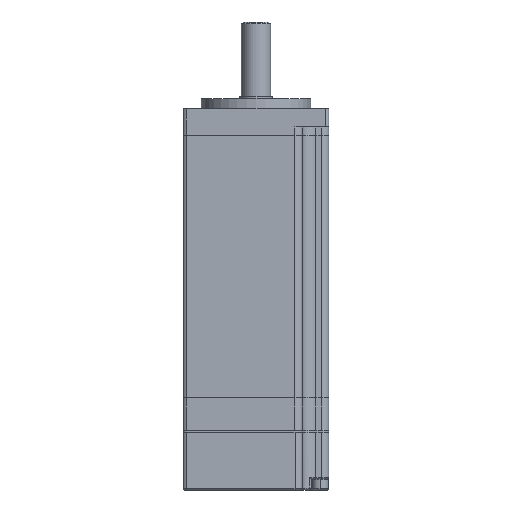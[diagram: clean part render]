
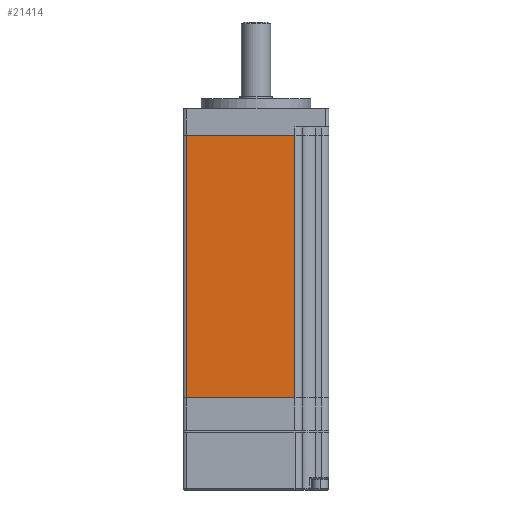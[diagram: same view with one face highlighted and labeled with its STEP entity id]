
A CAD part, front view. The second image highlights one B-rep face of the part: STEP entity #21414.
In plain terms, the highlighted planar face has unit normal (0, -1, 0).
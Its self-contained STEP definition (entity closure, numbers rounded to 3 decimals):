
#605 = LINE ( 'NONE', #18935, #1196 ) ;
#619 = EDGE_CURVE ( 'NONE', #4194, #2997, #23001, .T. ) ;
#1176 = EDGE_CURVE ( 'NONE', #4194, #21186, #6392, .T. ) ;
#1196 = VECTOR ( 'NONE', #5372, 1000. ) ;
#1214 = CARTESIAN_POINT ( 'NONE',  ( -19., -20., -38. ) ) ;
#1232 = ORIENTED_EDGE ( 'NONE', *, *, #20548, .F. ) ;
#1429 = EDGE_CURVE ( 'NONE', #21735, #2997, #4602, .T. ) ;
#2065 = FACE_OUTER_BOUND ( 'NONE', #12381, .T. ) ;
#2214 = CARTESIAN_POINT ( 'NONE',  ( -20., -20., -36. ) ) ;
#2997 = VERTEX_POINT ( 'NONE', #19107 ) ;
#4194 = VERTEX_POINT ( 'NONE', #22166 ) ;
#4281 = CARTESIAN_POINT ( 'NONE',  ( -19., -20., 36. ) ) ;
#4602 = LINE ( 'NONE', #1214, #7915 ) ;
#5372 = DIRECTION ( 'NONE',  ( 1., 0., 0. ) ) ;
#6366 = ORIENTED_EDGE ( 'NONE', *, *, #1429, .T. ) ;
#6392 = LINE ( 'NONE', #19752, #22091 ) ;
#7915 = VECTOR ( 'NONE', #19059, 1000. ) ;
#8211 = DIRECTION ( 'NONE',  ( 0., 0., 1. ) ) ;
#8914 = DIRECTION ( 'NONE',  ( 0., 0., -1. ) ) ;
#9953 = CARTESIAN_POINT ( 'NONE',  ( 10.7, -20., 36. ) ) ;
#10625 = DIRECTION ( 'NONE',  ( 0., -1., 0. ) ) ;
#10863 = CARTESIAN_POINT ( 'NONE',  ( -20., -20., -38. ) ) ;
#12381 = EDGE_LOOP ( 'NONE', ( #1232, #6366, #13371, #15918 ) ) ;
#13371 = ORIENTED_EDGE ( 'NONE', *, *, #619, .F. ) ;
#13824 = DIRECTION ( 'NONE',  ( -1., 0., 0. ) ) ;
#15199 = VECTOR ( 'NONE', #13824, 1000. ) ;
#15687 = AXIS2_PLACEMENT_3D ( 'NONE', #10863, #10625, #8914 ) ;
#15918 = ORIENTED_EDGE ( 'NONE', *, *, #1176, .T. ) ;
#18935 = CARTESIAN_POINT ( 'NONE',  ( -20., -20., 36. ) ) ;
#19059 = DIRECTION ( 'NONE',  ( 0., 0., -1. ) ) ;
#19107 = CARTESIAN_POINT ( 'NONE',  ( -19., -20., -36. ) ) ;
#19752 = CARTESIAN_POINT ( 'NONE',  ( 10.7, -20., -38. ) ) ;
#20380 = PLANE ( 'NONE',  #15687 ) ;
#20548 = EDGE_CURVE ( 'NONE', #21735, #21186, #605, .T. ) ;
#21186 = VERTEX_POINT ( 'NONE', #9953 ) ;
#21414 = ADVANCED_FACE ( 'NONE', ( #2065 ), #20380, .T. ) ;
#21735 = VERTEX_POINT ( 'NONE', #4281 ) ;
#22091 = VECTOR ( 'NONE', #8211, 1000. ) ;
#22166 = CARTESIAN_POINT ( 'NONE',  ( 10.7, -20., -36. ) ) ;
#23001 = LINE ( 'NONE', #2214, #15199 ) ;
